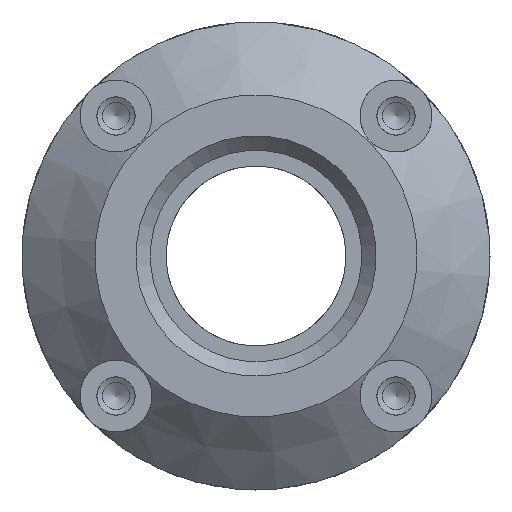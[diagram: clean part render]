
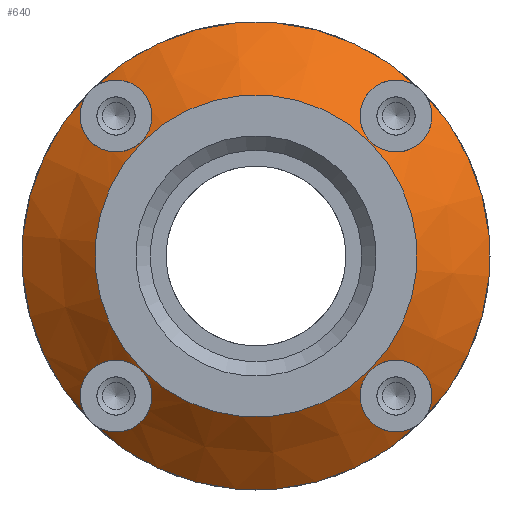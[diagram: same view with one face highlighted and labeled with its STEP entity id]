
A CAD part, front view. The second image highlights one B-rep face of the part: STEP entity #640.
In plain terms, the highlighted conical face has half-angle 50 degrees and reference radius 32.5 mm.
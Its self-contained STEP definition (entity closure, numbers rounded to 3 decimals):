
#100=CONICAL_SURFACE('',#1998,32.5,50.);
#355=FACE_BOUND('',#938,.T.);
#356=FACE_BOUND('',#939,.T.);
#505=CIRCLE('',#1980,32.5);
#506=CIRCLE('',#1981,32.5);
#507=CIRCLE('',#1982,32.5);
#508=CIRCLE('',#1983,32.5);
#510=CIRCLE('',#1986,22.37);
#640=ADVANCED_FACE('',(#355,#356),#100,.T.);
#938=EDGE_LOOP('',(#1323));
#939=EDGE_LOOP('',(#1324,#1325,#1326,#1327,#1328,#1329,#1330,#1331));
#1323=ORIENTED_EDGE('',*,*,#1706,.F.);
#1324=ORIENTED_EDGE('',*,*,#1704,.F.);
#1325=ORIENTED_EDGE('',*,*,#1715,.F.);
#1326=ORIENTED_EDGE('',*,*,#1703,.F.);
#1327=ORIENTED_EDGE('',*,*,#1716,.F.);
#1328=ORIENTED_EDGE('',*,*,#1702,.F.);
#1329=ORIENTED_EDGE('',*,*,#1717,.F.);
#1330=ORIENTED_EDGE('',*,*,#1701,.F.);
#1331=ORIENTED_EDGE('',*,*,#1718,.F.);
#1511=VERTEX_POINT('',#3183);
#1512=VERTEX_POINT('',#3184);
#1513=VERTEX_POINT('',#3186);
#1514=VERTEX_POINT('',#3188);
#1516=VERTEX_POINT('',#3194);
#1701=EDGE_CURVE('',#1511,#1512,#505,.T.);
#1702=EDGE_CURVE('',#1512,#1513,#506,.T.);
#1703=EDGE_CURVE('',#1513,#1514,#507,.T.);
#1704=EDGE_CURVE('',#1514,#1511,#508,.T.);
#1706=EDGE_CURVE('',#1516,#1516,#510,.T.);
#1715=EDGE_CURVE('',#1514,#1514,#1757,.T.);
#1716=EDGE_CURVE('',#1513,#1513,#1758,.T.);
#1717=EDGE_CURVE('',#1512,#1512,#1759,.T.);
#1718=EDGE_CURVE('',#1511,#1511,#1760,.T.);
#1757=B_SPLINE_CURVE_WITH_KNOTS('',3,(#3214,#3215,#3216,#3217,#3218,#3219,
#3220,#3221,#3222,#3223,#3224,#3225,#3226,#3227,#3228,#3229,#3230,#3231,
#3232,#3233,#3234,#3235),.UNSPECIFIED.,.T.,.F.,(2,2,2,2,2,2,2,2,2,2,2,2,
2),(-0.125,0.,0.125,0.25,0.375,0.438,
0.5,0.563,0.625,0.75,0.875,1.,1.125),
 .UNSPECIFIED.);
#1758=B_SPLINE_CURVE_WITH_KNOTS('',3,(#3236,#3237,#3238,#3239,#3240,#3241,
#3242,#3243,#3244,#3245,#3246,#3247,#3248,#3249,#3250,#3251,#3252,#3253,
#3254,#3255,#3256,#3257),.UNSPECIFIED.,.T.,.F.,(2,2,2,2,2,2,2,2,2,2,2,2,
2),(-0.125,0.,0.125,0.25,0.375,0.438,
0.5,0.563,0.625,0.75,0.875,1.,1.125),
 .UNSPECIFIED.);
#1759=B_SPLINE_CURVE_WITH_KNOTS('',3,(#3258,#3259,#3260,#3261,#3262,#3263,
#3264,#3265,#3266,#3267,#3268,#3269,#3270,#3271,#3272,#3273,#3274,#3275,
#3276,#3277,#3278,#3279),.UNSPECIFIED.,.T.,.F.,(2,2,2,2,2,2,2,2,2,2,2,2,
2),(-0.125,0.,0.125,0.25,0.375,0.438,0.5,
0.563,0.625,0.75,0.875,1.,1.125),.UNSPECIFIED.);
#1760=B_SPLINE_CURVE_WITH_KNOTS('',3,(#3280,#3281,#3282,#3283,#3284,#3285,
#3286,#3287,#3288,#3289,#3290,#3291,#3292,#3293,#3294,#3295,#3296,#3297,
#3298,#3299,#3300,#3301),.UNSPECIFIED.,.T.,.F.,(2,2,2,2,2,2,2,2,2,2,2,2,
2),(-0.125,0.,0.125,0.25,0.375,0.438,0.5,
0.563,0.625,0.75,0.875,1.,1.125),.UNSPECIFIED.);
#1980=AXIS2_PLACEMENT_3D('',#3182,#2500,#2501);
#1981=AXIS2_PLACEMENT_3D('',#3185,#2502,#2503);
#1982=AXIS2_PLACEMENT_3D('',#3187,#2504,#2505);
#1983=AXIS2_PLACEMENT_3D('',#3189,#2506,#2507);
#1986=AXIS2_PLACEMENT_3D('',#3193,#2512,#2513);
#1998=AXIS2_PLACEMENT_3D('',#3302,#2536,#2537);
#2500=DIRECTION('',(0.,1.,0.));
#2501=DIRECTION('',(0.707,0.,-0.707));
#2502=DIRECTION('',(0.,1.,0.));
#2503=DIRECTION('',(0.707,0.,-0.707));
#2504=DIRECTION('',(0.,1.,0.));
#2505=DIRECTION('',(0.707,0.,-0.707));
#2506=DIRECTION('',(0.,1.,0.));
#2507=DIRECTION('',(0.707,0.,-0.707));
#2512=DIRECTION('',(0.,-1.,0.));
#2513=DIRECTION('',(0.707,0.,-0.707));
#2536=DIRECTION('',(0.,1.,0.));
#2537=DIRECTION('',(-0.707,0.,0.707));
#3182=CARTESIAN_POINT('',(0.,-54.,0.));
#3183=CARTESIAN_POINT('',(-22.981,-54.,22.981));
#3184=CARTESIAN_POINT('',(22.981,-54.,22.981));
#3185=CARTESIAN_POINT('',(0.,-54.,0.));
#3186=CARTESIAN_POINT('',(22.981,-54.,-22.981));
#3187=CARTESIAN_POINT('',(0.,-54.,0.));
#3188=CARTESIAN_POINT('',(-22.981,-54.,-22.981));
#3189=CARTESIAN_POINT('',(0.,-54.,0.));
#3193=CARTESIAN_POINT('',(0.,-62.5,0.));
#3194=CARTESIAN_POINT('',(15.818,-62.5,-15.818));
#3214=CARTESIAN_POINT('',(-24.066,-54.,-21.896));
#3215=CARTESIAN_POINT('',(-21.896,-54.,-24.066));
#3216=CARTESIAN_POINT('',(-20.355,-54.533,-24.535));
#3217=CARTESIAN_POINT('',(-17.733,-56.026,-24.324));
#3218=CARTESIAN_POINT('',(-16.618,-56.962,-23.731));
#3219=CARTESIAN_POINT('',(-15.011,-58.9,-22.034));
#3220=CARTESIAN_POINT('',(-14.514,-59.905,-20.933));
#3221=CARTESIAN_POINT('',(-14.421,-61.204,-19.08));
#3222=CARTESIAN_POINT('',(-14.501,-61.604,-18.423));
#3223=CARTESIAN_POINT('',(-14.974,-62.205,-17.101));
#3224=CARTESIAN_POINT('',(-15.376,-62.391,-16.443));
#3225=CARTESIAN_POINT('',(-16.445,-62.391,-15.375));
#3226=CARTESIAN_POINT('',(-17.112,-62.2,-14.969));
#3227=CARTESIAN_POINT('',(-18.422,-61.604,-14.502));
#3228=CARTESIAN_POINT('',(-19.083,-61.203,-14.42));
#3229=CARTESIAN_POINT('',(-20.934,-59.903,-14.515));
#3230=CARTESIAN_POINT('',(-22.043,-58.89,-15.018));
#3231=CARTESIAN_POINT('',(-23.726,-56.967,-16.613));
#3232=CARTESIAN_POINT('',(-24.328,-56.019,-17.741));
#3233=CARTESIAN_POINT('',(-24.533,-54.526,-20.372));
#3234=CARTESIAN_POINT('',(-24.066,-54.,-21.896));
#3235=CARTESIAN_POINT('',(-21.896,-54.,-24.066));
#3236=CARTESIAN_POINT('',(21.915,-54.,-24.047));
#3237=CARTESIAN_POINT('',(24.047,-54.,-21.915));
#3238=CARTESIAN_POINT('',(24.533,-54.528,-20.368));
#3239=CARTESIAN_POINT('',(24.327,-56.02,-17.74));
#3240=CARTESIAN_POINT('',(23.727,-56.968,-16.611));
#3241=CARTESIAN_POINT('',(22.029,-58.905,-15.008));
#3242=CARTESIAN_POINT('',(20.926,-59.91,-14.512));
#3243=CARTESIAN_POINT('',(19.074,-61.208,-14.421));
#3244=CARTESIAN_POINT('',(18.416,-61.608,-14.503));
#3245=CARTESIAN_POINT('',(17.096,-62.206,-14.976));
#3246=CARTESIAN_POINT('',(16.437,-62.392,-15.381));
#3247=CARTESIAN_POINT('',(15.371,-62.39,-16.45));
#3248=CARTESIAN_POINT('',(14.966,-62.198,-17.117));
#3249=CARTESIAN_POINT('',(14.501,-61.601,-18.428));
#3250=CARTESIAN_POINT('',(14.42,-61.199,-19.088));
#3251=CARTESIAN_POINT('',(14.516,-59.9,-20.938));
#3252=CARTESIAN_POINT('',(15.02,-58.887,-22.046));
#3253=CARTESIAN_POINT('',(16.617,-56.964,-23.728));
#3254=CARTESIAN_POINT('',(17.737,-56.021,-24.328));
#3255=CARTESIAN_POINT('',(20.385,-54.519,-24.533));
#3256=CARTESIAN_POINT('',(21.915,-54.,-24.047));
#3257=CARTESIAN_POINT('',(24.047,-54.,-21.915));
#3258=CARTESIAN_POINT('',(24.048,-54.,21.914));
#3259=CARTESIAN_POINT('',(21.914,-54.,24.048));
#3260=CARTESIAN_POINT('',(20.365,-54.528,24.534));
#3261=CARTESIAN_POINT('',(17.736,-56.023,24.326));
#3262=CARTESIAN_POINT('',(16.607,-56.971,23.725));
#3263=CARTESIAN_POINT('',(15.005,-58.91,22.024));
#3264=CARTESIAN_POINT('',(14.51,-59.916,20.919));
#3265=CARTESIAN_POINT('',(14.422,-61.214,19.065));
#3266=CARTESIAN_POINT('',(14.505,-61.614,18.406));
#3267=CARTESIAN_POINT('',(14.982,-62.21,17.086));
#3268=CARTESIAN_POINT('',(15.389,-62.394,16.427));
#3269=CARTESIAN_POINT('',(16.462,-62.388,15.363));
#3270=CARTESIAN_POINT('',(17.13,-62.194,14.96));
#3271=CARTESIAN_POINT('',(18.442,-61.593,14.498));
#3272=CARTESIAN_POINT('',(19.108,-61.186,14.419));
#3273=CARTESIAN_POINT('',(20.955,-59.885,14.522));
#3274=CARTESIAN_POINT('',(22.05,-58.884,15.02));
#3275=CARTESIAN_POINT('',(23.742,-56.947,16.634));
#3276=CARTESIAN_POINT('',(24.33,-56.015,17.746));
#3277=CARTESIAN_POINT('',(24.532,-54.522,20.379));
#3278=CARTESIAN_POINT('',(24.048,-54.,21.914));
#3279=CARTESIAN_POINT('',(21.914,-54.,24.048));
#3280=CARTESIAN_POINT('',(-21.901,-54.,24.061));
#3281=CARTESIAN_POINT('',(-24.061,-54.,21.901));
#3282=CARTESIAN_POINT('',(-24.534,-54.527,20.367));
#3283=CARTESIAN_POINT('',(-24.325,-56.026,17.731));
#3284=CARTESIAN_POINT('',(-23.719,-56.978,16.601));
#3285=CARTESIAN_POINT('',(-22.027,-58.906,15.008));
#3286=CARTESIAN_POINT('',(-20.934,-59.906,14.511));
#3287=CARTESIAN_POINT('',(-19.058,-61.219,14.421));
#3288=CARTESIAN_POINT('',(-18.406,-61.614,14.504));
#3289=CARTESIAN_POINT('',(-17.082,-62.211,14.984));
#3290=CARTESIAN_POINT('',(-16.43,-62.394,15.386));
#3291=CARTESIAN_POINT('',(-15.365,-62.388,16.458));
#3292=CARTESIAN_POINT('',(-14.963,-62.196,17.125));
#3293=CARTESIAN_POINT('',(-14.5,-61.598,18.433));
#3294=CARTESIAN_POINT('',(-14.42,-61.196,19.093));
#3295=CARTESIAN_POINT('',(-14.518,-59.896,20.943));
#3296=CARTESIAN_POINT('',(-15.023,-58.884,22.049));
#3297=CARTESIAN_POINT('',(-16.617,-56.964,23.728));
#3298=CARTESIAN_POINT('',(-17.748,-56.015,24.329));
#3299=CARTESIAN_POINT('',(-20.372,-54.526,24.532));
#3300=CARTESIAN_POINT('',(-21.901,-54.,24.061));
#3301=CARTESIAN_POINT('',(-24.061,-54.,21.901));
#3302=CARTESIAN_POINT('',(0.,-54.,0.));
